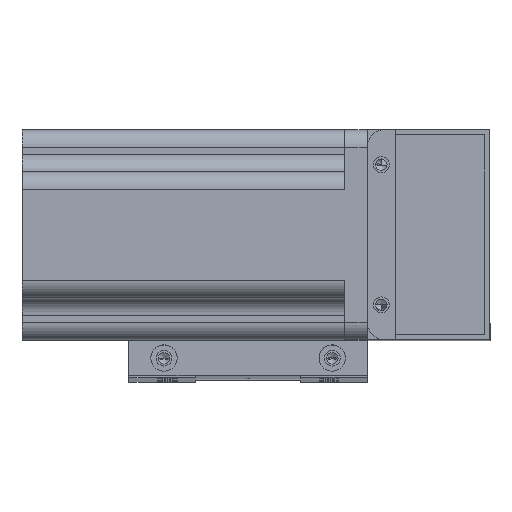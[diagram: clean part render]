
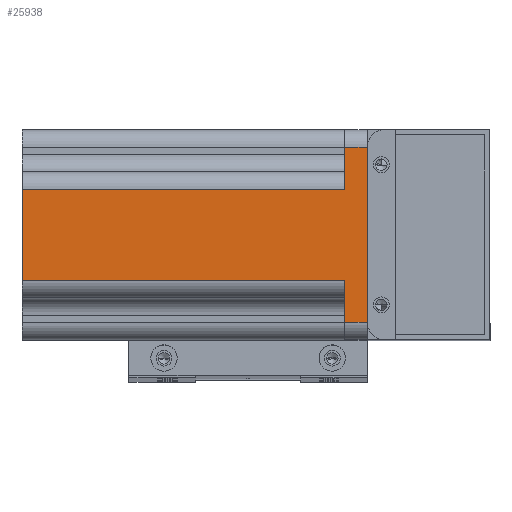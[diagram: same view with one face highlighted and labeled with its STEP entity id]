
A CAD part, top view. The second image highlights one B-rep face of the part: STEP entity #25938.
In plain terms, the highlighted planar face has unit normal (0, 0, 1) as drawn and (0, 1, 0) by its records, which use the part's own axes.
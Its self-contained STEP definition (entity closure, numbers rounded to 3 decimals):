
#393 = CARTESIAN_POINT ( 'NONE',  ( -25., 30., 6.5 ) ) ;
#822 = DIRECTION ( 'NONE',  ( 1., 0., 0. ) ) ;
#1748 = EDGE_CURVE ( 'NONE', #7249, #2021, #6701, .T. ) ;
#2021 = VERTEX_POINT ( 'NONE', #21928 ) ;
#2071 = ORIENTED_EDGE ( 'NONE', *, *, #21127, .T. ) ;
#2138 = DIRECTION ( 'NONE',  ( 0., 0., -1. ) ) ;
#2375 = PLANE ( 'NONE',  #9362 ) ;
#2402 = EDGE_CURVE ( 'NONE', #7249, #20611, #7044, .T. ) ;
#4567 = CARTESIAN_POINT ( 'NONE',  ( 25., 30., 6.5 ) ) ;
#5282 = CARTESIAN_POINT ( 'NONE',  ( -13., 30., -92. ) ) ;
#5309 = EDGE_CURVE ( 'NONE', #7193, #21351, #9776, .T. ) ;
#5597 = CARTESIAN_POINT ( 'NONE',  ( -25., 30., 6.5 ) ) ;
#6274 = VECTOR ( 'NONE', #17496, 1000. ) ;
#6336 = VECTOR ( 'NONE', #822, 1000. ) ;
#6447 = EDGE_CURVE ( 'NONE', #7193, #20544, #23146, .T. ) ;
#6591 = ORIENTED_EDGE ( 'NONE', *, *, #17252, .T. ) ;
#6701 = LINE ( 'NONE', #23314, #16623 ) ;
#7044 = LINE ( 'NONE', #23460, #6336 ) ;
#7193 = VERTEX_POINT ( 'NONE', #21129 ) ;
#7249 = VERTEX_POINT ( 'NONE', #5282 ) ;
#7448 = FACE_OUTER_BOUND ( 'NONE', #24613, .T. ) ;
#7804 = LINE ( 'NONE', #21109, #10983 ) ;
#7819 = ORIENTED_EDGE ( 'NONE', *, *, #21212, .F. ) ;
#8528 = LINE ( 'NONE', #23859, #17381 ) ;
#9362 = AXIS2_PLACEMENT_3D ( 'NONE', #393, #27421, #18500 ) ;
#9776 = LINE ( 'NONE', #4567, #11189 ) ;
#10983 = VECTOR ( 'NONE', #12124, 1000. ) ;
#11189 = VECTOR ( 'NONE', #20221, 1000. ) ;
#12124 = DIRECTION ( 'NONE',  ( -1., 0., 0. ) ) ;
#12837 = ORIENTED_EDGE ( 'NONE', *, *, #6447, .F. ) ;
#12972 = ORIENTED_EDGE ( 'NONE', *, *, #5309, .T. ) ;
#14336 = CARTESIAN_POINT ( 'NONE',  ( 13., 30., 0. ) ) ;
#16623 = VECTOR ( 'NONE', #25595, 1000. ) ;
#17109 = CARTESIAN_POINT ( 'NONE',  ( -25., 30., 0. ) ) ;
#17252 = EDGE_CURVE ( 'NONE', #2021, #27035, #18653, .T. ) ;
#17381 = VECTOR ( 'NONE', #23563, 1000. ) ;
#17496 = DIRECTION ( 'NONE',  ( -1., 0., 0. ) ) ;
#18500 = DIRECTION ( 'NONE',  ( 0., 0., -1. ) ) ;
#18653 = LINE ( 'NONE', #17109, #6274 ) ;
#18719 = LINE ( 'NONE', #29232, #20848 ) ;
#19603 = CARTESIAN_POINT ( 'NONE',  ( 25., 30., 0. ) ) ;
#20221 = DIRECTION ( 'NONE',  ( 0., 0., -1. ) ) ;
#20544 = VERTEX_POINT ( 'NONE', #25786 ) ;
#20611 = VERTEX_POINT ( 'NONE', #28436 ) ;
#20848 = VECTOR ( 'NONE', #2138, 1000. ) ;
#21109 = CARTESIAN_POINT ( 'NONE',  ( -25., 30., 0. ) ) ;
#21127 = EDGE_CURVE ( 'NONE', #21351, #23842, #7804, .T. ) ;
#21129 = CARTESIAN_POINT ( 'NONE',  ( 25., 30., 6.5 ) ) ;
#21212 = EDGE_CURVE ( 'NONE', #20544, #27035, #8528, .T. ) ;
#21351 = VERTEX_POINT ( 'NONE', #19603 ) ;
#21415 = ORIENTED_EDGE ( 'NONE', *, *, #26552, .T. ) ;
#21504 = ORIENTED_EDGE ( 'NONE', *, *, #2402, .F. ) ;
#21928 = CARTESIAN_POINT ( 'NONE',  ( -13., 30., 0. ) ) ;
#22099 = VECTOR ( 'NONE', #25966, 1000. ) ;
#23146 = LINE ( 'NONE', #5597, #22099 ) ;
#23314 = CARTESIAN_POINT ( 'NONE',  ( -13., 30., 6.5 ) ) ;
#23460 = CARTESIAN_POINT ( 'NONE',  ( -18., 30., -92. ) ) ;
#23563 = DIRECTION ( 'NONE',  ( 0., 0., -1. ) ) ;
#23842 = VERTEX_POINT ( 'NONE', #14336 ) ;
#23859 = CARTESIAN_POINT ( 'NONE',  ( -25., 30., 6.5 ) ) ;
#24613 = EDGE_LOOP ( 'NONE', ( #2071, #21415, #21504, #25359, #6591, #7819, #12837, #12972 ) ) ;
#25359 = ORIENTED_EDGE ( 'NONE', *, *, #1748, .T. ) ;
#25595 = DIRECTION ( 'NONE',  ( 0., 0., 1. ) ) ;
#25786 = CARTESIAN_POINT ( 'NONE',  ( -25., 30., 6.5 ) ) ;
#25938 = ADVANCED_FACE ( 'NONE', ( #7448 ), #2375, .F. ) ;
#25966 = DIRECTION ( 'NONE',  ( -1., 0., 0. ) ) ;
#26552 = EDGE_CURVE ( 'NONE', #23842, #20611, #18719, .T. ) ;
#26755 = CARTESIAN_POINT ( 'NONE',  ( -25., 30., 0. ) ) ;
#27035 = VERTEX_POINT ( 'NONE', #26755 ) ;
#27421 = DIRECTION ( 'NONE',  ( 0., -1., 0. ) ) ;
#28436 = CARTESIAN_POINT ( 'NONE',  ( 13., 30., -92. ) ) ;
#29232 = CARTESIAN_POINT ( 'NONE',  ( 13., 30., 6.5 ) ) ;
